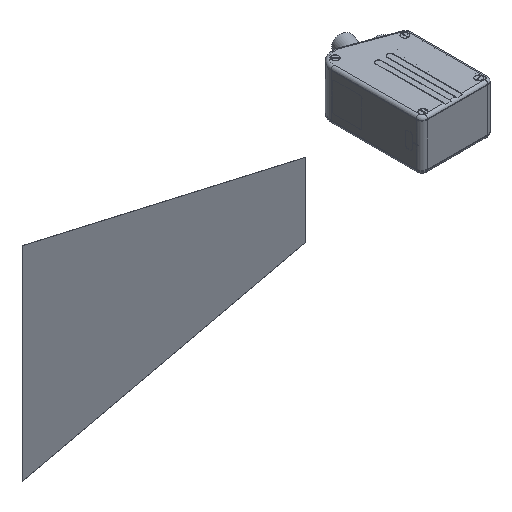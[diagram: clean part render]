
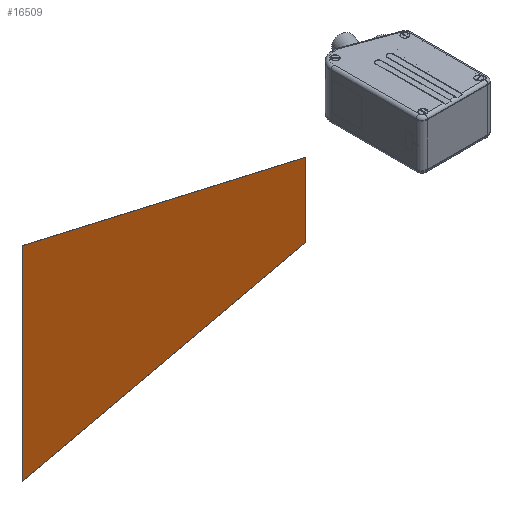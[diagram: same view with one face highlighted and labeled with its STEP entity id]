
A CAD part, isometric view. The second image highlights one B-rep face of the part: STEP entity #16509.
In plain terms, the highlighted planar face has unit normal (0, -1, 0) as drawn and (0, 0, -1) by its records, which use the part's own axes.
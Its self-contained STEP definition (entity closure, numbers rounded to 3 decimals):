
#534 = CARTESIAN_POINT ( 'NONE',  ( 32.5, -1.574, 0. ) ) ;
#848 = VECTOR ( 'NONE', #29326, 1000. ) ;
#901 = CARTESIAN_POINT ( 'NONE',  ( 90., 248.426, 0. ) ) ;
#946 = CARTESIAN_POINT ( 'NONE',  ( -32.5, -1.574, 0. ) ) ;
#2563 = EDGE_CURVE ( 'NONE', #8674, #20851, #24701, .T. ) ;
#3424 = FACE_OUTER_BOUND ( 'NONE', #15915, .T. ) ;
#3439 = VECTOR ( 'NONE', #8910, 1000. ) ;
#4980 = VECTOR ( 'NONE', #12708, 1000. ) ;
#7242 = EDGE_CURVE ( 'NONE', #20851, #22845, #12484, .T. ) ;
#8479 = CARTESIAN_POINT ( 'NONE',  ( -90., 248.426, 0. ) ) ;
#8521 = EDGE_CURVE ( 'NONE', #18197, #8674, #11633, .T. ) ;
#8674 = VERTEX_POINT ( 'NONE', #901 ) ;
#8817 = ORIENTED_EDGE ( 'NONE', *, *, #7242, .F. ) ;
#8910 = DIRECTION ( 'NONE',  ( -1., 0., 0. ) ) ;
#10614 = DIRECTION ( 'NONE',  ( -1., 0., 0. ) ) ;
#11633 = LINE ( 'NONE', #28656, #4980 ) ;
#12484 = LINE ( 'NONE', #946, #34528 ) ;
#12708 = DIRECTION ( 'NONE',  ( 0.224, 0.975, 0. ) ) ;
#14396 = ORIENTED_EDGE ( 'NONE', *, *, #17419, .F. ) ;
#15007 = LINE ( 'NONE', #21460, #848 ) ;
#15915 = EDGE_LOOP ( 'NONE', ( #8817, #20388, #17795, #14396 ) ) ;
#16509 = ADVANCED_FACE ( 'NONE', ( #3424 ), #17964, .T. ) ;
#17419 = EDGE_CURVE ( 'NONE', #22845, #18197, #15007, .T. ) ;
#17795 = ORIENTED_EDGE ( 'NONE', *, *, #8521, .F. ) ;
#17964 = PLANE ( 'NONE',  #24337 ) ;
#18197 = VERTEX_POINT ( 'NONE', #534 ) ;
#19861 = CARTESIAN_POINT ( 'NONE',  ( -90., 248.426, 0. ) ) ;
#20388 = ORIENTED_EDGE ( 'NONE', *, *, #2563, .F. ) ;
#20851 = VERTEX_POINT ( 'NONE', #8479 ) ;
#20881 = CARTESIAN_POINT ( 'NONE',  ( 0., 0., 0. ) ) ;
#21114 = DIRECTION ( 'NONE',  ( 0., 0., -1. ) ) ;
#21460 = CARTESIAN_POINT ( 'NONE',  ( 32.5, -1.574, 0. ) ) ;
#22845 = VERTEX_POINT ( 'NONE', #30721 ) ;
#24337 = AXIS2_PLACEMENT_3D ( 'NONE', #20881, #21114, #10614 ) ;
#24701 = LINE ( 'NONE', #19861, #3439 ) ;
#28656 = CARTESIAN_POINT ( 'NONE',  ( 90., 248.426, 0. ) ) ;
#29326 = DIRECTION ( 'NONE',  ( 1., 0., 0. ) ) ;
#30721 = CARTESIAN_POINT ( 'NONE',  ( -32.5, -1.574, 0. ) ) ;
#32835 = DIRECTION ( 'NONE',  ( 0.224, -0.975, 0. ) ) ;
#34528 = VECTOR ( 'NONE', #32835, 1000. ) ;
